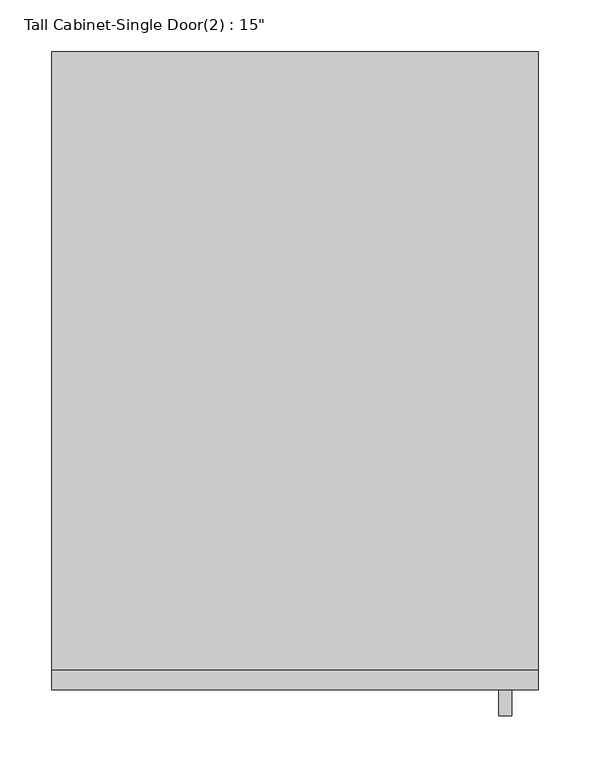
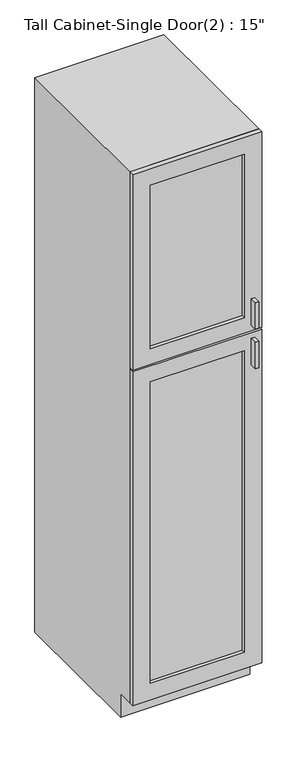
"""IFC4 building model written with IfcOpenShell, lengths in millimetres: furniture geometry."""

import ifcopenshell
import ifcopenshell.guid

model = None  # the IFC model being written
_history = None  # IfcOwnerHistory: only IFC2X3 demands one
_inside = {}  # id of a spatial element -> (the spatial element, [elements in it])
_under = {}  # id of a project, library or spatial element -> (it, [spatial elements below it])
_declared = {}  # id of a project -> (the project, [libraries it declares])
_typed = {}  # id of a type object -> (the type object, [elements of that type])
_made_of = {}  # id of a material, layer set ... -> (it, [elements and type objects made of it])


def new_model(schema):
    """Start an empty IFC model of exactly this schema.

    Asked for "IFC4X3", IfcOpenShell would pick the latest addendum, in which some entities
    have other attributes; the version numbers below select the first issue.
    IFC2X3 requires an IfcOwnerHistory on every rooted entity: one is made here for all.
    """
    global model, _history
    if schema == "IFC4X3":
        model = ifcopenshell.file(schema_version=(4, 3, 0, 0))
    else:
        model = ifcopenshell.file(schema=schema)
    _inside.clear()
    _under.clear()
    _declared.clear()
    _typed.clear()
    _made_of.clear()
    _history = None
    if model.schema == "IFC2X3":
        org = make("IfcOrganization", Name="unknown")
        user = make(
            "IfcPersonAndOrganization",
            ThePerson=make("IfcPerson", FamilyName="unknown"),
            TheOrganization=org,
        )
        app = make(
            "IfcApplication",
            ApplicationDeveloper=org,
            Version="unknown",
            ApplicationFullName="unknown",
            ApplicationIdentifier="unknown",
        )
        _history = make(
            "IfcOwnerHistory",
            OwningUser=user,
            OwningApplication=app,
            ChangeAction="ADDED",
            CreationDate=0,
        )
    return model


def make(cls, **values):
    """One entity of the class cls with the attributes given. An attribute that is None is left unset."""
    return model.create_entity(
        cls, **{name: value for name, value in values.items() if value is not None}
    )


def rooted(cls, **values):
    """An entity with a GlobalId (a new one), such as an element, a storey or a relation."""
    return make(cls, GlobalId=ifcopenshell.guid.new(), OwnerHistory=_history, **values)


def si_unit(unit_type, name, prefix=None):
    """IfcSIUnit, for example si_unit("LENGTHUNIT", "METRE", prefix="MILLI")."""
    return make("IfcSIUnit", UnitType=unit_type, Prefix=prefix, Name=name)


def assignment(units):
    """IfcUnitAssignment: the units of a project."""
    return None if units is None else make("IfcUnitAssignment", Units=units)


def point(xyz):
    """IfcCartesianPoint."""
    return None if xyz is None else make("IfcCartesianPoint", Coordinates=xyz)


def direction(xyz):
    """IfcDirection."""
    return None if xyz is None else make("IfcDirection", DirectionRatios=xyz)


def frame(location, z_axis=None, x_axis=None):
    """IfcAxis2Placement3D, a coordinate frame: its origin and axes. An axis left out is left unset."""
    return make(
        "IfcAxis2Placement3D",
        Location=point(location),
        Axis=direction(z_axis),
        RefDirection=direction(x_axis),
    )


def origin():
    """The frame at (0, 0, 0) with its axes left unset."""
    return frame((0.0, 0.0, 0.0))


def place(relative_to, where):
    """IfcLocalPlacement: puts the frame where relative to a parent placement (None: the world)."""
    return make(
        "IfcLocalPlacement", PlacementRelTo=relative_to, RelativePlacement=where
    )


def context(
    kind, dimensions, precision=None, world=None, true_north=None, identifier=None
):
    """IfcGeometricRepresentationContext, for example the 3D "Model" context."""
    return make(
        "IfcGeometricRepresentationContext",
        ContextIdentifier=identifier,
        ContextType=kind,
        CoordinateSpaceDimension=dimensions,
        Precision=precision,
        WorldCoordinateSystem=world,
        TrueNorth=true_north,
    )


def project(units=None, contexts=None):
    """IfcProject with its units and contexts."""
    return rooted(
        "IfcProject",
        Name="project",
        RepresentationContexts=contexts,
        UnitsInContext=assignment(units),
    )


def spatial(cls, under=None, at=None, **own):
    """A site, building, storey or space (cls), placed at a placement, below another one or the project."""
    s = rooted(cls, ObjectPlacement=at, **own)
    if under is not None:
        _under.setdefault(under.id(), (under, []))[1].append(s)
    return s


def polyline(points):
    """IfcPolyline through the points."""
    return make("IfcPolyline", Points=[point(p) for p in points])


def outline(outer, holes=None, kind="AREA"):
    """IfcArbitraryClosedProfileDef: a profile drawn as a closed curve; with holes, ...WithVoids."""
    if holes is None:
        return make("IfcArbitraryClosedProfileDef", ProfileType=kind, OuterCurve=outer)
    return make(
        "IfcArbitraryProfileDefWithVoids",
        ProfileType=kind,
        OuterCurve=outer,
        InnerCurves=holes,
    )


def extrude(swept, where, along, depth):
    """IfcExtrudedAreaSolid: the profile swept, set in the frame where, extruded along a direction by depth."""
    return make(
        "IfcExtrudedAreaSolid",
        SweptArea=swept,
        Position=where,
        ExtrudedDirection=direction(along),
        Depth=depth,
    )


def faces_of(points, faces, orient=None, outer=None):
    """IfcFace entities. A face is a list of loops; a loop is a list of indices into points, from 0.

    orient and outer hold one flag for each loop. By default every Orientation is true, the
    first loop of a face is its IfcFaceOuterBound and the others are IfcFaceBound.
    """
    made = []
    for i, loops in enumerate(faces):
        bounds = []
        for j, loop in enumerate(loops):
            is_outer = j == 0 if outer is None else outer[i][j]
            bounds.append(
                make(
                    "IfcFaceOuterBound" if is_outer else "IfcFaceBound",
                    Bound=make("IfcPolyLoop", Polygon=[points[k] for k in loop]),
                    Orientation=True if orient is None else orient[i][j],
                )
            )
        made.append(make("IfcFace", Bounds=bounds))
    return made


def faceted_brep(points, faces, orient=None, outer=None, voids=None):
    """IfcFacetedBrep: a solid bounded by flat faces; with voids (closed shells), ...WithVoids."""
    shared = [point(p) for p in points]
    hull = make("IfcClosedShell", CfsFaces=faces_of(shared, faces, orient, outer))
    if voids is None:
        return make("IfcFacetedBrep", Outer=hull)
    return make(
        "IfcFacetedBrepWithVoids",
        Outer=hull,
        Voids=[
            make(cls, CfsFaces=faces_of(shared, fs, o, b)) for cls, fs, o, b in voids
        ],
    )


def shape(context_of_items, identifier, shape_type, items):
    """IfcShapeRepresentation: the items that make up one representation, for example the "Body"."""
    return make(
        "IfcShapeRepresentation",
        ContextOfItems=context_of_items,
        RepresentationIdentifier=identifier,
        RepresentationType=shape_type,
        Items=items,
    )


def source(mapping_origin, context_of_items, identifier, shape_type, items):
    """IfcRepresentationMap: a shape defined once, which mapped items show again and again."""
    return make(
        "IfcRepresentationMap",
        MappingOrigin=mapping_origin,
        MappedRepresentation=shape(context_of_items, identifier, shape_type, items),
    )


def transform(
    local_origin,
    x_axis=None,
    y_axis=None,
    z_axis=None,
    scale=None,
    scale2=None,
    scale3=None,
    uniform=True,
):
    """IfcCartesianTransformationOperator3D, or its non-uniform kind. x_axis, y_axis, z_axis: its Axis1, 2, 3."""
    if uniform:
        return make(
            "IfcCartesianTransformationOperator3D",
            Axis1=direction(x_axis),
            Axis2=direction(y_axis),
            LocalOrigin=point(local_origin),
            Scale=scale,
            Axis3=direction(z_axis),
        )
    return make(
        "IfcCartesianTransformationOperator3DnonUniform",
        Axis1=direction(x_axis),
        Axis2=direction(y_axis),
        LocalOrigin=point(local_origin),
        Scale=scale,
        Axis3=direction(z_axis),
        Scale2=scale2,
        Scale3=scale3,
    )


def mapped(mapping_source, mapping_target):
    """IfcMappedItem: shows the shape of a source again, moved by a transform."""
    return make(
        "IfcMappedItem", MappingSource=mapping_source, MappingTarget=mapping_target
    )


def made_of(thing, what):
    """Note that an element or type object is made of a material, layer set ...; save() writes the relation."""
    if what is not None:
        _made_of.setdefault(what.id(), (what, []))[1].append(thing)
    return thing


def element(
    cls,
    number,
    at=None,
    inside=None,
    cuts=None,
    type_object=None,
    material=None,
    context=None,
    identifier="Body",
    shape_type=None,
    held_by="IfcProductDefinitionShape",
    body=None,
    shapes=None,
    **own,
):
    """One element of the class cls, such as IfcWall. Its Tag is "e" and its number.

    at: its placement. inside: the storey or other place that contains it. cuts: it is an
    opening in that element (IfcRelVoidsElement). A single representation is given by context,
    identifier, shape_type and body (its items); several are given by shapes. held_by: the class
    of the entity that holds the representations. save() writes the other relations.
    """
    e = rooted(cls, Tag="e%d" % number, ObjectPlacement=at, **own)
    if body is not None:
        shapes = [shape(context, identifier, shape_type, body)]
    if shapes is not None:
        e.Representation = make(held_by, Representations=shapes)
    if inside is not None:
        _inside.setdefault(inside.id(), (inside, []))[1].append(e)
    if cuts is not None:
        rooted(
            "IfcRelVoidsElement", RelatingBuildingElement=cuts, RelatedOpeningElement=e
        )
    if type_object is not None:
        _typed.setdefault(type_object.id(), (type_object, []))[1].append(e)
    return made_of(e, material)


def aggregate(whole, parts):
    """IfcRelAggregates: a whole, such as a stair, and the parts it consists of."""
    return rooted("IfcRelAggregates", RelatingObject=whole, RelatedObjects=parts)


def save(model, path):
    """Write the relations noted so far, then the file.

    IfcRelAggregates (storeys below a building ...), IfcRelContainedInSpatialStructure (elements
    in a storey), IfcRelDefinesByType, IfcRelAssociatesMaterial and IfcRelDeclares: one each for
    every whole, place, type object, material and project.
    """
    for whole, parts in _under.values():
        aggregate(whole, parts)
    for where, things in _inside.values():
        rooted(
            "IfcRelContainedInSpatialStructure",
            RelatedElements=things,
            RelatingStructure=where,
        )
    for kind, things in _typed.values():
        rooted("IfcRelDefinesByType", RelatedObjects=things, RelatingType=kind)
    for what, things in _made_of.values():
        rooted("IfcRelAssociatesMaterial", RelatedObjects=things, RelatingMaterial=what)
    for by, libraries in _declared.values():
        rooted("IfcRelDeclares", RelatingContext=by, RelatedDefinitions=libraries)
    model.write(path)


def furniture_41f67e13(model_context):
    return source(origin(), model_context, "Body", "SolidModel", [
        faceted_brep([(253.5780072, -596.9, 90.4875), (253.5780072, -596.9, 2133.6), (-216.1025973, -596.9, 2133.6), (-216.1025973, -596.9, 90.4875), (234.5280072, -596.9, 2114.55), (234.5280072, -596.9, 109.5375), (-197.0525973, -596.9, 109.5375), (-197.0525973, -596.9, 2114.55), (-216.1025973, 0.0, 2133.6), (253.5780072, 0.0, 2133.6), (253.5780072, 0.0, 0.0), (-216.1025973, 0.0, 0.0), (253.5780072, -539.75, 90.4875), (253.5780072, -539.75, 0.0), (-216.1025973, -539.75, 0.0), (-216.1025973, -539.75, 90.4875), (234.5280072, -19.05, 2114.55), (234.5280072, -19.05, 109.5375), (-197.0525973, -19.05, 109.5375), (-197.0525973, -19.05, 2114.55)], [[[0, 1, 2, 3], [4, 5, 6, 7]], [[8, 9, 10, 11]], [[1, 0, 12, 13, 10, 9]], [[2, 1, 9, 8]], [[3, 2, 8, 11, 14, 15]], [[0, 3, 15, 12]], [[5, 4, 16, 17]], [[6, 5, 17, 18]], [[7, 6, 18, 19]], [[4, 7, 19, 16]], [[10, 13, 14, 11]], [[14, 13, 12, 15]], [[17, 16, 19, 18]]]),
        extrude(outline(polyline([(228.1780072, -641.35), (215.6457755, -641.35), (215.6457755, -615.95), (228.1780072, -615.95), (228.1780072, -641.35)])), frame((0.0, 0.0, 1403.5480367), z_axis=(0.0, 0.0, 1.0), x_axis=(1.0, 0.0, 0.0)), (0.0, 0.0, 1.0), 101.6),
        extrude(outline(polyline([(228.1780072, -641.35), (215.6457755, -641.35), (215.6457755, -615.95), (228.1780072, -615.95), (228.1780072, -641.35)])), frame((0.0, 0.0, 1251.1480367), z_axis=(0.0, 0.0, 1.0), x_axis=(1.0, 0.0, 0.0)), (0.0, 0.0, 1.0), 101.6),
        extrude(outline(polyline([(190.0780072, -603.25), (-152.6025973, -603.25), (-152.6025973, -596.9), (190.0780072, -596.9), (190.0780072, -603.25)])), frame((0.0, 0.0, 1441.6480367), z_axis=(0.0, 0.0, 1.0), x_axis=(1.0, 0.0, 0.0)), (0.0, 0.0, 1.0), 628.4519633),
        extrude(outline(polyline([(190.0780072, -603.25), (-152.6025973, -603.25), (-152.6025973, -596.9), (190.0780072, -596.9), (190.0780072, -603.25)])), frame((0.0, 0.0, 153.9875), z_axis=(0.0, 0.0, 1.0), x_axis=(1.0, 0.0, 0.0)), (0.0, 0.0, 1.0), 1160.6605367),
        extrude(outline(polyline([(2133.6, 253.5780072), (2133.6, -216.1025973), (1381.3230367, -216.1025973), (1381.3230367, 253.5780072), (2133.6, 253.5780072)]), holes=[polyline([(2070.1, 190.0780072), (1441.6480367, 190.0780072), (1441.6480367, -152.6025973), (2070.1, -152.6025973), (2070.1, 190.0780072)])]), frame((0.0, -615.95, 0.0), z_axis=(0.0, 1.0, 0.0), x_axis=(0.0, 0.0, 1.0)), (0.0, 0.0, 1.0), 19.05),
        extrude(outline(polyline([(90.4875, 253.5780072), (1374.9730367, 253.5780072), (1374.9730367, -216.1025973), (90.4875, -216.1025973), (90.4875, 253.5780072)]), holes=[polyline([(1314.6480367, 190.0780072), (153.9875, 190.0780072), (153.9875, -152.6025973), (1314.6480367, -152.6025973), (1314.6480367, 190.0780072)])]), frame((0.0, -615.95, 0.0), z_axis=(0.0, 1.0, 0.0), x_axis=(0.0, 0.0, 1.0)), (0.0, 0.0, 1.0), 19.05),
    ])


if __name__ == "__main__":
    model = new_model("IFC4")
    model_context = context("Model", 3, world=origin())
    ifc_project = project(units=[si_unit("LENGTHUNIT", "METRE", prefix="MILLI")], contexts=[model_context])
    site = spatial("IfcSite", under=ifc_project)
    building = spatial("IfcBuilding", under=site)
    placement = place(None, origin())
    furniture_shape = furniture_41f67e13(model_context)
    element("IfcFurniture", 1, ObjectType="Tall Cabinet-Single Door(2) : 15\"", at=placement, inside=building, context=model_context, shape_type="MappedRepresentation", body=[
        mapped(furniture_shape, transform((0.0, 0.0, 0.0), x_axis=(1.0, 0.0, 0.0), y_axis=(0.0, 1.0, 0.0), z_axis=(0.0, 0.0, 1.0))),
    ])
    save(model, "model.ifc")
